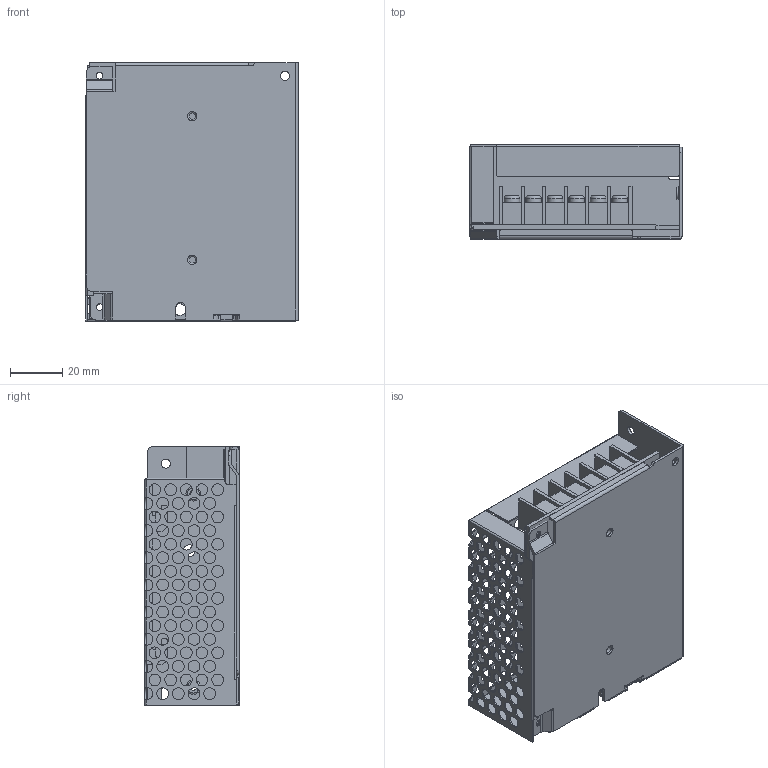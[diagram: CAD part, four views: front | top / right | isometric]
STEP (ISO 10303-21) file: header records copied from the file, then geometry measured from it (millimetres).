
FILE_DESCRIPTION((''),'2;1');
FILE_NAME('C:\Users\shirley\Desktop\RD-35.stp','2019-08-19T14:33:41',('shirley'),(''),'Autodesk Inventor 2010','Autodesk Inventor 2010','');
FILE_SCHEMA(('AUTOMOTIVE_DESIGN { 1 0 10303 214 1 1 1 1 }'));
Length unit declared in the file: millimetre
Products named in the file (5): RD-35; 1XX1932A-T_4; 1XX1932A-D_8; PCB; TN
Assembly tree (4 placements, depth 2):
  RD-35
    1XX1932A-T_4
    1XX1932A-D_8
    PCB
    TN
Bounding box: 81.2 x 36 x 99 mm (x, y, z)
Volume: 29930.5 mm3; surface area: 64876.4 mm2
Topology: 3 solids, 4 shells, 756 faces, 2258 edges, 1549 vertices
Faces by surface type: cylinder 422, plane 303, bspline 16, torus 14, cone 1
Full cylindrical faces by diameter (mm): 2.6 x6, 3 x4, 3.5 x2, 4.5 x272, 4.6 x4, 6 x6
Entity records: 25897 total; most frequent: CARTESIAN_POINT 4757, DIRECTION 4199, ORIENTED_EDGE 3745, EDGE_CURVE 1874, EDGE_LOOP 1647, AXIS2_PLACEMENT_3D 1593, VERTEX_POINT 1422, VECTOR 1013
